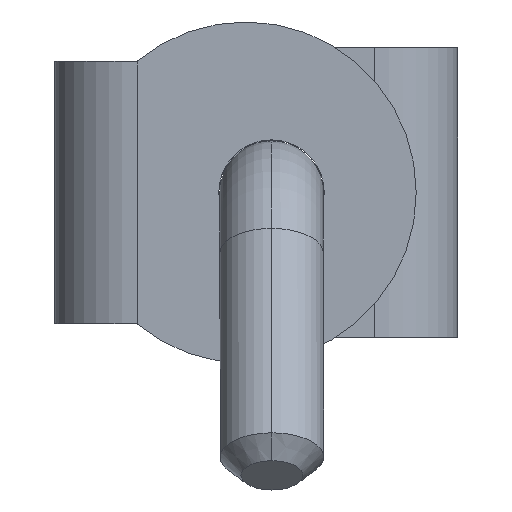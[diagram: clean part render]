
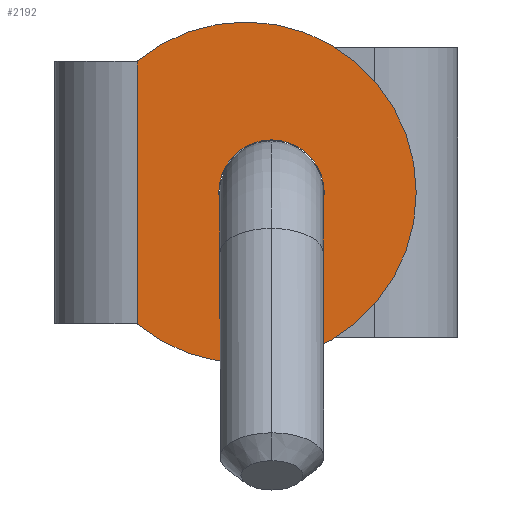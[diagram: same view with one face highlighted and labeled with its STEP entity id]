
A CAD part, left-side view. The second image highlights one B-rep face of the part: STEP entity #2192.
In plain terms, the highlighted planar face has unit normal (-1, 0, 0).
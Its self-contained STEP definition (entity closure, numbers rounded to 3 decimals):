
#377 = CARTESIAN_POINT ( 'NONE',  ( 0., 0., 8.25 ) ) ;
#378 = CARTESIAN_POINT ( 'NONE',  ( 0., -13.5, 1.886 ) ) ;
#379 = DIRECTION ( 'NONE',  ( 0., -1., 0. ) ) ;
#380 = DIRECTION ( 'NONE',  ( 1., 0., 0. ) ) ;
#381 = CARTESIAN_POINT ( 'NONE',  ( 0., -8.25, 8.25 ) ) ;
#382 = AXIS2_PLACEMENT_3D ( 'NONE', #381, #380, #379 ) ;
#387 = CIRCLE ( 'NONE', #382, 8.25 ) ;
#494 = CARTESIAN_POINT ( 'NONE',  ( 0., -4.45, 8.25 ) ) ;
#495 = CARTESIAN_POINT ( 'NONE',  ( 0., -9.55, 8.25 ) ) ;
#496 = DIRECTION ( 'NONE',  ( 0., 1., 0. ) ) ;
#497 = DIRECTION ( 'NONE',  ( 1., 0., 0. ) ) ;
#498 = AXIS2_PLACEMENT_3D ( 'NONE', #505, #497, #496 ) ;
#499 = CIRCLE ( 'NONE', #498, 2.55 ) ;
#505 = CARTESIAN_POINT ( 'NONE',  ( 0., -7., 8.25 ) ) ;
#523 = CIRCLE ( 'NONE', #585, 8.25 ) ;
#524 = CARTESIAN_POINT ( 'NONE',  ( 0., -13.5, 14.614 ) ) ;
#525 = DIRECTION ( 'NONE',  ( 0., 0., -1. ) ) ;
#526 = VECTOR ( 'NONE', #525, 1000. ) ;
#527 = CARTESIAN_POINT ( 'NONE',  ( 0., -13.5, 16.5 ) ) ;
#528 = LINE ( 'NONE', #527, #526 ) ;
#529 = DIRECTION ( 'NONE',  ( 0., 1., 0. ) ) ;
#530 = DIRECTION ( 'NONE',  ( 1., 0., 0. ) ) ;
#531 = CARTESIAN_POINT ( 'NONE',  ( 0., -7., 8.25 ) ) ;
#532 = AXIS2_PLACEMENT_3D ( 'NONE', #531, #530, #529 ) ;
#533 = CIRCLE ( 'NONE', #532, 2.55 ) ;
#582 = DIRECTION ( 'NONE',  ( 0., -1., 0. ) ) ;
#583 = DIRECTION ( 'NONE',  ( 1., 0., 0. ) ) ;
#584 = CARTESIAN_POINT ( 'NONE',  ( 0., -8.25, 8.25 ) ) ;
#585 = AXIS2_PLACEMENT_3D ( 'NONE', #584, #583, #582 ) ;
#604 = DIRECTION ( 'NONE',  ( 0., 1., 0. ) ) ;
#605 = DIRECTION ( 'NONE',  ( 1., 0., 0. ) ) ;
#606 = CARTESIAN_POINT ( 'NONE',  ( 0., 0., 16.5 ) ) ;
#607 = AXIS2_PLACEMENT_3D ( 'NONE', #606, #605, #604 ) ;
#608 = PLANE ( 'NONE',  #607 ) ;
#609 = FACE_OUTER_BOUND ( 'NONE', #2170, .T. ) ;
#610 = FACE_BOUND ( 'NONE', #2193, .T. ) ;
#2087 = EDGE_CURVE ( 'NONE', #2088, #2089, #387, .T. ) ;
#2088 = VERTEX_POINT ( 'NONE', #378 ) ;
#2089 = VERTEX_POINT ( 'NONE', #377 ) ;
#2151 = EDGE_CURVE ( 'NONE', #2152, #2153, #499, .T. ) ;
#2152 = VERTEX_POINT ( 'NONE', #495 ) ;
#2153 = VERTEX_POINT ( 'NONE', #494 ) ;
#2167 = ORIENTED_EDGE ( 'NONE', *, *, #2168, .T. ) ;
#2168 = EDGE_CURVE ( 'NONE', #2153, #2152, #533, .T. ) ;
#2169 = ORIENTED_EDGE ( 'NONE', *, *, #2151, .T. ) ;
#2170 = EDGE_LOOP ( 'NONE', ( #2171, #2174, #2176 ) ) ;
#2171 = ORIENTED_EDGE ( 'NONE', *, *, #2172, .F. ) ;
#2172 = EDGE_CURVE ( 'NONE', #2173, #2088, #528, .T. ) ;
#2173 = VERTEX_POINT ( 'NONE', #524 ) ;
#2174 = ORIENTED_EDGE ( 'NONE', *, *, #2175, .F. ) ;
#2175 = EDGE_CURVE ( 'NONE', #2089, #2173, #523, .T. ) ;
#2176 = ORIENTED_EDGE ( 'NONE', *, *, #2087, .F. ) ;
#2192 = ADVANCED_FACE ( 'NONE', ( #610, #609 ), #608, .F. ) ;
#2193 = EDGE_LOOP ( 'NONE', ( #2167, #2169 ) ) ;
